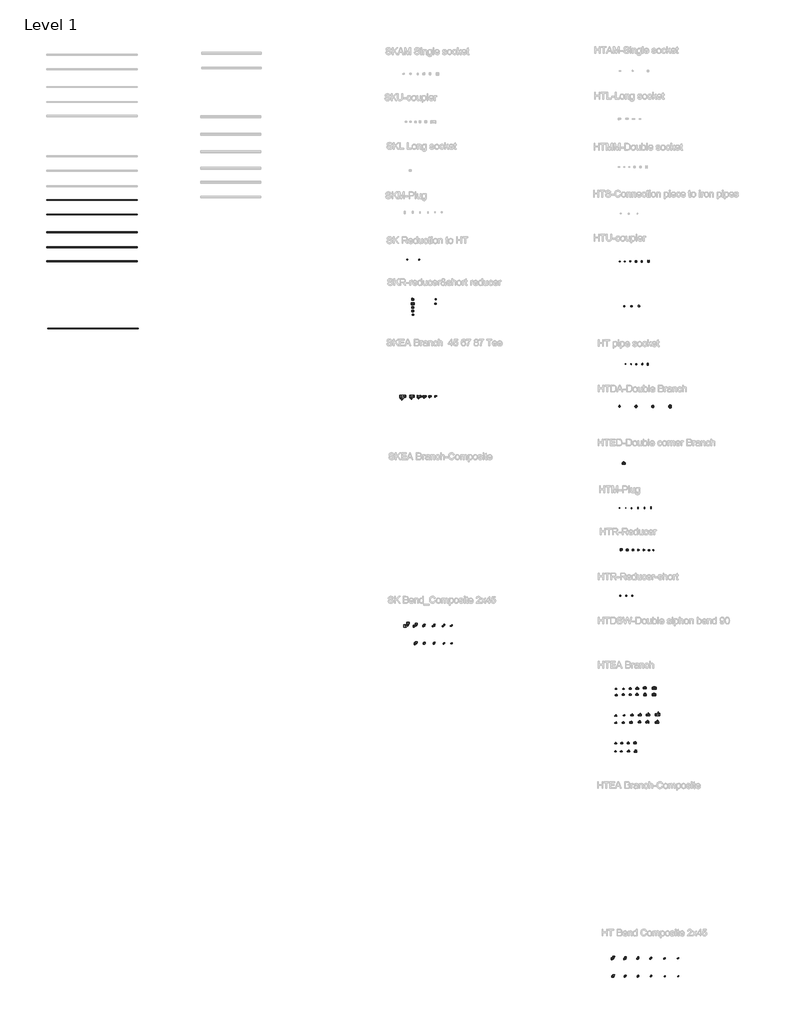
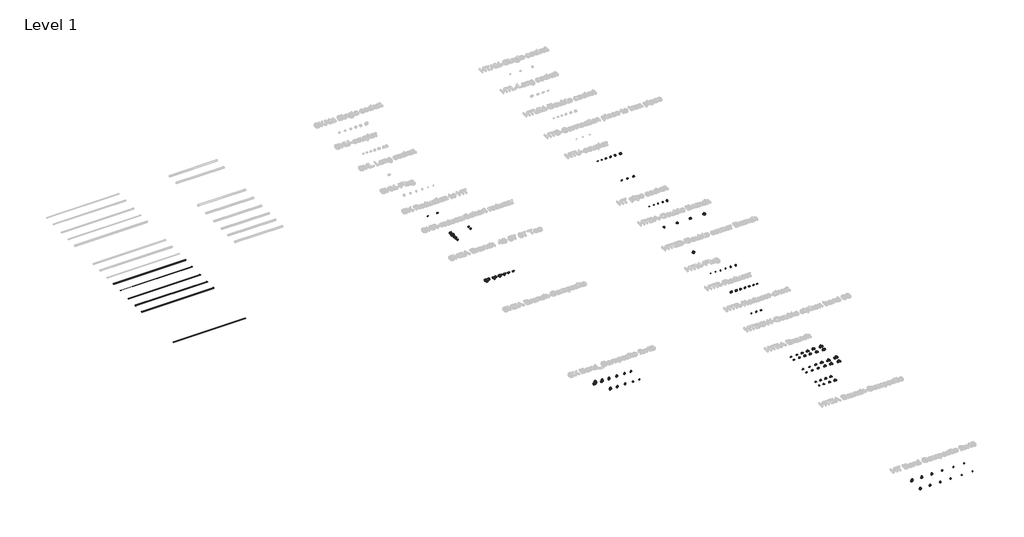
# One storey, part 1 of 29: 105 pipe fittings, 6 pipe segments.
"""IFC4 building model written with IfcOpenShell, lengths in millimetres."""

from ifc_helpers import new_model, si_unit, point, frame, frame_2d, origin, place, context, project, spatial, circle_curve, trimmed, segment, composite_curve, outline, extrude, transform, mapped, element, save
from components import pipe_fitting_b621045b, pipe_fitting_ceba5c8c, pipe_fitting_963da66b, pipe_fitting_d5d9e85b, pipe_fitting_ef411e22, pipe_fitting_05fc3727, pipe_fitting_0aba19ff, pipe_fitting_ca2bbeb8, pipe_fitting_bcb41124, pipe_fitting_d8eed5cc, pipe_fitting_7beec764, pipe_fitting_df5d9b67, pipe_fitting_f28c39a5, pipe_fitting_736c5d36, pipe_fitting_f0051c42, pipe_fitting_ecd3c65b, pipe_fitting_39af7424, pipe_fitting_bbc5507e, pipe_fitting_d46e7f13, pipe_fitting_e81c372e, pipe_fitting_c7a28f41, pipe_fitting_61a857b8, pipe_fitting_6fccea22, pipe_fitting_032b0b43, pipe_fitting_e509aae5, pipe_fitting_e68889b6, pipe_fitting_ca7c4e00, pipe_fitting_f14a9791, pipe_fitting_3a3b7264, pipe_fitting_425869a0, pipe_fitting_25bed5f7, pipe_fitting_d5ad7a8b, pipe_fitting_74035c22, pipe_fitting_14c2af34, pipe_fitting_e70e33fe, pipe_fitting_d945f117, pipe_fitting_5a0b59dd, pipe_fitting_4569e667, pipe_fitting_76f77cfd, pipe_fitting_930e2915, pipe_fitting_93a60349, pipe_fitting_1bd3c4db, pipe_fitting_7a552233, pipe_fitting_d9f46261, pipe_fitting_883b7029, pipe_fitting_b32571a5, pipe_fitting_7ab4710a, pipe_fitting_0effaf64, pipe_fitting_d2d6dc7e, pipe_fitting_077ba487, pipe_fitting_26660ebb, pipe_fitting_a8cb0abb, pipe_fitting_e676a374, pipe_fitting_79e6566c, pipe_fitting_26ced66b, pipe_fitting_282a1c25, pipe_fitting_83815e7b, pipe_fitting_f4149198, pipe_fitting_fcfd2369, pipe_fitting_dde092d7, pipe_fitting_0ca0ca97, pipe_fitting_7d6da301, pipe_fitting_84de09dd, pipe_fitting_5e54109a, pipe_fitting_ddc697cf, pipe_fitting_f813f56d, pipe_fitting_dea01873, pipe_fitting_d21c2c27, pipe_fitting_2df8d73d, pipe_fitting_50b450b3, pipe_fitting_351803b2, pipe_fitting_17b3b98e, pipe_fitting_c48c9deb, pipe_fitting_87a31271, pipe_fitting_170b30c4, pipe_fitting_2198333b, pipe_fitting_190eae22, pipe_fitting_3d344751, pipe_fitting_4e04f077, pipe_fitting_3aace630, pipe_fitting_2d7897f2, pipe_fitting_acd45fcd, pipe_fitting_a853ea9b, pipe_fitting_be12157c, pipe_fitting_bf39f6b9, pipe_fitting_26640547, pipe_fitting_f10a4fb0, pipe_fitting_c3cd4e37, pipe_fitting_97af18a5, pipe_fitting_66154b80, pipe_fitting_bdf33838, pipe_fitting_6c856efd, pipe_fitting_f454dd66, pipe_fitting_1cb4de3e, pipe_fitting_11ccc1d9, pipe_fitting_4f944cac, pipe_fitting_14ca0a48, pipe_fitting_9407c5e4, pipe_fitting_dc30568a, pipe_fitting_8a9b414e, pipe_fitting_3ae46ea1, pipe_fitting_c8f16737, pipe_fitting_87b8bd0e, pipe_fitting_85ea6e78, pipe_fitting_a793d895

model = new_model("IFC4")

# Units and contexts
model_context = context("Model", 3, world=origin())
ifc_project = project(units=[si_unit("LENGTHUNIT", "METRE", prefix="MILLI")], contexts=[model_context])

# Site, building, storey
site = spatial("IfcSite", under=ifc_project)
building = spatial("IfcBuilding", under=site)
storey = spatial("IfcBuildingStorey", under=building, Name="Level 1", Elevation=0.0)

# Pipe fittings
placement = place(None, origin())
pipe_fitting_shape = pipe_fitting_b621045b(model_context)
element("IfcPipeFitting", 1, ObjectType="Superdrain SKR-short reducer : Superdrain SKR-short reducer", at=placement, inside=storey, context=model_context, shape_type="MappedRepresentation", body=[
    mapped(pipe_fitting_shape, transform((74.0763112, -5849.0379103, 0.0), x_axis=(-1.0, 0.0, 0.0), y_axis=(0.0, -1.0, 0.0), z_axis=(0.0, 0.0, 1.0))),
])
pipe_fitting_2_shape = pipe_fitting_ceba5c8c(model_context)
element("IfcPipeFitting", 2, ObjectType="Superdrain SKR-short reducer : Superdrain SKR-short reducer", at=placement, inside=storey, context=model_context, shape_type="MappedRepresentation", body=[
    mapped(pipe_fitting_2_shape, transform((4.9567852, -6243.4729925, 0.0), x_axis=(1.0, 0.0, 0.0), y_axis=(0.0, 1.0, 0.0), z_axis=(0.0, 0.0, 1.0))),
])
pipe_fitting_3_shape = pipe_fitting_963da66b(model_context)
element("IfcPipeFitting", 3, ObjectType="Superdrain HTU-coupler : Superdrain HTU-coupler", at=placement, inside=storey, context=model_context, shape_type="MappedRepresentation", body=[
    mapped(pipe_fitting_3_shape, transform((17178.1747155, -2429.0497962, 0.0), x_axis=(1.0, 0.0, 0.0), y_axis=(0.0, 1.0, 0.0), z_axis=(0.0, 0.0, 1.0))),
])
pipe_fitting_4_shape = pipe_fitting_d5d9e85b(model_context)
element("IfcPipeFitting", 4, ObjectType="Superdrain HTU-coupler : Superdrain HTU-coupler", at=placement, inside=storey, context=model_context, shape_type="MappedRepresentation", body=[
    mapped(pipe_fitting_4_shape, transform((17670.1314342, -2429.0497962, 0.0), x_axis=(1.0, 0.0, 0.0), y_axis=(0.0, 1.0, 0.0), z_axis=(0.0, 0.0, 1.0))),
])
pipe_fitting_5_shape = pipe_fitting_ef411e22(model_context)
element("IfcPipeFitting", 5, ObjectType="Superdrain HTU-coupler : Superdrain HTU-coupler", at=placement, inside=storey, context=model_context, shape_type="MappedRepresentation", body=[
    mapped(pipe_fitting_5_shape, transform((18182.4309778, -2429.0497962, 0.0), x_axis=(1.0, 0.0, 0.0), y_axis=(0.0, 1.0, 0.0), z_axis=(0.0, 0.0, 1.0))),
])
pipe_fitting_6_shape = pipe_fitting_05fc3727(model_context)
element("IfcPipeFitting", 6, ObjectType="Superdrain HTU-coupler : Superdrain HTU-coupler", at=placement, inside=storey, context=model_context, shape_type="MappedRepresentation", body=[
    mapped(pipe_fitting_6_shape, transform((18714.5561083, -2429.0497962, 0.0), x_axis=(1.0, 0.0, 0.0), y_axis=(0.0, 1.0, 0.0), z_axis=(0.0, 0.0, 1.0))),
])
pipe_fitting_7_shape = pipe_fitting_0aba19ff(model_context)
element("IfcPipeFitting", 7, ObjectType="Superdrain HTU-coupler : Superdrain HTU-coupler", at=placement, inside=storey, context=model_context, shape_type="MappedRepresentation", body=[
    mapped(pipe_fitting_7_shape, transform((19316.0888645, -2429.0497962, 0.0), x_axis=(1.0, 0.0, 0.0), y_axis=(0.0, 1.0, 0.0), z_axis=(0.0, 0.0, 1.0))),
])
pipe_fitting_8_shape = pipe_fitting_ca2bbeb8(model_context)
element("IfcPipeFitting", 8, ObjectType="Superdrain SKR-Reducer : Superdrain SKR-Reducer", at=placement, inside=storey, context=model_context, shape_type="MappedRepresentation", body=[
    mapped(pipe_fitting_8_shape, transform((-1986.5721203, -7249.1944041, 0.0), x_axis=(1.0, 0.0, 0.0), y_axis=(0.0, 1.0, 0.0), z_axis=(0.0, 0.0, 1.0))),
])
pipe_fitting_9_shape = pipe_fitting_bcb41124(model_context)
element("IfcPipeFitting", 9, ObjectType="Superdrain SKR-Reducer : Superdrain SKR-Reducer", at=placement, inside=storey, context=model_context, shape_type="MappedRepresentation", body=[
    mapped(pipe_fitting_9_shape, transform((-2011.1081199, -6604.9732701, 0.0), x_axis=(1.0, 0.0, 0.0), y_axis=(0.0, 1.0, 0.0), z_axis=(0.0, 0.0, 1.0))),
])
pipe_fitting_10_shape = pipe_fitting_d8eed5cc(model_context)
element("IfcPipeFitting", 10, ObjectType="Superdrain SKR-Reducer : Superdrain SKR-Reducer", at=placement, inside=storey, context=model_context, shape_type="MappedRepresentation", body=[
    mapped(pipe_fitting_10_shape, transform((-2000.9802372, -6914.1614462, 0.0), x_axis=(1.0, 0.0, 0.0), y_axis=(0.0, 1.0, 0.0), z_axis=(0.0, 0.0, 1.0))),
])
pipe_fitting_11_shape = pipe_fitting_7beec764(model_context)
element("IfcPipeFitting", 11, ObjectType="Superdrain SKR-Reducer : Superdrain SKR-Reducer", at=placement, inside=storey, context=model_context, shape_type="MappedRepresentation", body=[
    mapped(pipe_fitting_11_shape, transform((-1987.5143677, -5860.0190698, 0.0), x_axis=(1.0, 0.0, 0.0), y_axis=(0.0, 1.0, 0.0), z_axis=(0.0, 0.0, 1.0))),
])
pipe_fitting_12_shape = pipe_fitting_df5d9b67(model_context)
element("IfcPipeFitting", 12, ObjectType="Superdrain SKR-Reducer : Superdrain SKR-Reducer", at=placement, inside=storey, context=model_context, shape_type="MappedRepresentation", body=[
    mapped(pipe_fitting_12_shape, transform((-1987.1100883, -6258.5095943, 0.0), x_axis=(1.0, 0.0, 0.0), y_axis=(0.0, 1.0, 0.0), z_axis=(0.0, 0.0, 1.0))),
])
pipe_fitting_13_shape = pipe_fitting_f28c39a5(model_context)
element("IfcPipeFitting", 13, ObjectType="Superdrain HTUG-Connection piece to cast-iron pipes : Superdrain HTUG-Connection piece to cast-iron pipes", at=placement, inside=storey, context=model_context, shape_type="MappedRepresentation", body=[
    mapped(pipe_fitting_13_shape, transform((17141.6289269, -6474.4361615, 0.0), x_axis=(1.0, 0.0, 0.0), y_axis=(0.0, 1.0, 0.0), z_axis=(0.0, 0.0, 1.0))),
])
pipe_fitting_14_shape = pipe_fitting_736c5d36(model_context)
element("IfcPipeFitting", 14, ObjectType="Superdrain HTUG-Connection piece to cast-iron pipes : Superdrain HTUG-Connection piece to cast-iron pipes", at=placement, inside=storey, context=model_context, shape_type="MappedRepresentation", body=[
    mapped(pipe_fitting_14_shape, transform((18486.9352266, -6474.4361615, 0.0), x_axis=(1.0, 0.0, 0.0), y_axis=(0.0, 1.0, 0.0), z_axis=(0.0, 0.0, 1.0))),
])
pipe_fitting_15_shape = pipe_fitting_f0051c42(model_context)
element("IfcPipeFitting", 15, ObjectType="Superdrain SKEA Branch : Superdrain SKEA Branch", at=placement, inside=storey, context=model_context, shape_type="MappedRepresentation", body=[
    mapped(pipe_fitting_15_shape, transform((-1362.7865664, -14625.5901938, 0.0), x_axis=(-1.0, 0.0, 0.0), y_axis=(0.0, -1.0, 0.0), z_axis=(0.0, 0.0, 1.0))),
])
pipe_fitting_16_shape = pipe_fitting_ecd3c65b(model_context)
element("IfcPipeFitting", 16, ObjectType="Superdrain SKEA Branch : Superdrain SKEA Branch", at=placement, inside=storey, context=model_context, shape_type="MappedRepresentation", body=[
    mapped(pipe_fitting_16_shape, transform((-882.7709882, -14627.6707619, 0.0), x_axis=(-1.0, 0.0, 0.0), y_axis=(0.0, -1.0, 0.0), z_axis=(0.0, 0.0, 1.0))),
])
pipe_fitting_17_shape = pipe_fitting_39af7424(model_context)
element("IfcPipeFitting", 17, ObjectType="Superdrain SKEA Branch : Superdrain SKEA Branch", at=placement, inside=storey, context=model_context, shape_type="MappedRepresentation", body=[
    mapped(pipe_fitting_17_shape, transform((-409.2514433, -14622.6351501, 0.0), x_axis=(-1.0, 0.0, 0.0), y_axis=(0.0, -1.0, 0.0), z_axis=(0.0, 0.0, 1.0))),
])
pipe_fitting_18_shape = pipe_fitting_bbc5507e(model_context)
element("IfcPipeFitting", 18, ObjectType="Superdrain SKEA Branch : Superdrain SKEA Branch", at=placement, inside=storey, context=model_context, shape_type="MappedRepresentation", body=[
    mapped(pipe_fitting_18_shape, transform((97.8618446, -14610.8206915, 0.0), x_axis=(-1.0, 0.0, 0.0), y_axis=(0.0, -1.0, 0.0), z_axis=(0.0, 0.0, 1.0))),
])
pipe_fitting_19_shape = pipe_fitting_d46e7f13(model_context)
element("IfcPipeFitting", 19, ObjectType="Superdrain SKEA Branch : Superdrain SKEA Branch", at=placement, inside=storey, context=model_context, shape_type="MappedRepresentation", body=[
    mapped(pipe_fitting_19_shape, transform((-1982.7865664, -14625.5901938, 0.0), x_axis=(-1.0, 0.0, 0.0), y_axis=(0.0, -1.0, 0.0), z_axis=(0.0, 0.0, 1.0))),
])
pipe_fitting_20_shape = pipe_fitting_e81c372e(model_context)
element("IfcPipeFitting", 20, ObjectType="Superdrain SKEA Branch : Superdrain SKEA Branch", at=placement, inside=storey, context=model_context, shape_type="MappedRepresentation", body=[
    mapped(pipe_fitting_20_shape, transform((-2802.7865664, -14625.5901938, 0.0), x_axis=(-1.0, 0.0, 0.0), y_axis=(0.0, -1.0, 0.0), z_axis=(0.0, 0.0, 1.0))),
])
pipe_fitting_21_shape = pipe_fitting_c7a28f41(model_context)
element("IfcPipeFitting", 21, ObjectType="Superdrain HT pipe socket : Superdrain HT pipe socket", at=placement, inside=storey, context=model_context, shape_type="MappedRepresentation", body=[
    mapped(pipe_fitting_21_shape, transform((17203.7987219, -11721.4891843, 0.0), x_axis=(1.0, 0.0, 0.0), y_axis=(0.0, 1.0, 0.0), z_axis=(0.0, 0.0, 1.0))),
])
pipe_fitting_22_shape = pipe_fitting_61a857b8(model_context)
element("IfcPipeFitting", 22, ObjectType="Superdrain HT pipe socket : Superdrain HT pipe socket", at=placement, inside=storey, context=model_context, shape_type="MappedRepresentation", body=[
    mapped(pipe_fitting_22_shape, transform((17723.9614939, -11721.4891843, 0.0), x_axis=(1.0, 0.0, 0.0), y_axis=(0.0, 1.0, 0.0), z_axis=(0.0, 0.0, 1.0))),
])
pipe_fitting_23_shape = pipe_fitting_6fccea22(model_context)
element("IfcPipeFitting", 23, ObjectType="Superdrain HT pipe socket : Superdrain HT pipe socket", at=placement, inside=storey, context=model_context, shape_type="MappedRepresentation", body=[
    mapped(pipe_fitting_23_shape, transform((18190.9043326, -11721.4891843, 0.0), x_axis=(1.0, 0.0, 0.0), y_axis=(0.0, 1.0, 0.0), z_axis=(0.0, 0.0, 1.0))),
])
pipe_fitting_24_shape = pipe_fitting_032b0b43(model_context)
element("IfcPipeFitting", 24, ObjectType="Superdrain HT pipe socket : Superdrain HT pipe socket", at=placement, inside=storey, context=model_context, shape_type="MappedRepresentation", body=[
    mapped(pipe_fitting_24_shape, transform((18722.7227813, -11721.4891843, 0.0), x_axis=(1.0, 0.0, 0.0), y_axis=(0.0, 1.0, 0.0), z_axis=(0.0, 0.0, 1.0))),
])
pipe_fitting_25_shape = pipe_fitting_e509aae5(model_context)
element("IfcPipeFitting", 25, ObjectType="Superdrain HT pipe socket : Superdrain HT pipe socket", at=placement, inside=storey, context=model_context, shape_type="MappedRepresentation", body=[
    mapped(pipe_fitting_25_shape, transform((19215.1672891, -11721.4891843, 0.0), x_axis=(1.0, 0.0, 0.0), y_axis=(0.0, 1.0, 0.0), z_axis=(0.0, 0.0, 1.0))),
])
pipe_fitting_26_shape = pipe_fitting_e68889b6(model_context)
element("IfcPipeFitting", 26, ObjectType="Superdrain HTDA-Double Branch : Superdrain HTDA-Double Branch", at=placement, inside=storey, context=model_context, shape_type="MappedRepresentation", body=[
    mapped(pipe_fitting_26_shape, transform((16683.9136594, -15531.7494421, 0.0), x_axis=(1.0, 0.0, 0.0), y_axis=(0.0, 1.0, 0.0), z_axis=(0.0, 0.0, 1.0))),
])
pipe_fitting_27_shape = pipe_fitting_ca7c4e00(model_context)
element("IfcPipeFitting", 27, ObjectType="Superdrain HTDA-Double Branch : Superdrain HTDA-Double Branch", at=placement, inside=storey, context=model_context, shape_type="MappedRepresentation", body=[
    mapped(pipe_fitting_27_shape, transform((18175.7806623, -15545.8915777, 0.0), x_axis=(1.0, 0.0, 0.0), y_axis=(0.0, 1.0, 0.0), z_axis=(0.0, 0.0, 1.0))),
])
pipe_fitting_28_shape = pipe_fitting_f14a9791(model_context)
element("IfcPipeFitting", 28, ObjectType="Superdrain HTDA-Double Branch : Superdrain HTDA-Double Branch", at=placement, inside=storey, context=model_context, shape_type="MappedRepresentation", body=[
    mapped(pipe_fitting_28_shape, transform((19680.7468134, -15543.5327339, 0.0), x_axis=(1.0, 0.0, 0.0), y_axis=(0.0, 1.0, 0.0), z_axis=(0.0, 0.0, 1.0))),
])
pipe_fitting_29_shape = pipe_fitting_3a3b7264(model_context)
element("IfcPipeFitting", 29, ObjectType="Superdrain HTDA-Double Branch : Superdrain HTDA-Double Branch", at=placement, inside=storey, context=model_context, shape_type="MappedRepresentation", body=[
    mapped(pipe_fitting_29_shape, transform((21253.9863296, -15543.5327339, 0.0), x_axis=(1.0, 0.0, 0.0), y_axis=(0.0, 1.0, 0.0), z_axis=(0.0, 0.0, 1.0))),
])
pipe_fitting_30_shape = pipe_fitting_425869a0(model_context)
element("IfcPipeFitting", 30, ObjectType="Superdrain HTED-Double corner Branch : Superdrain HTED-Double corner Branch", at=placement, inside=storey, context=model_context, shape_type="MappedRepresentation", body=[
    mapped(pipe_fitting_30_shape, transform((17060.2060533, -20713.0190851, 0.0), x_axis=(1.0, 0.0, 0.0), y_axis=(0.0, 1.0, 0.0), z_axis=(0.0, 0.0, 1.0))),
])
pipe_fitting_31_shape = pipe_fitting_25bed5f7(model_context)
element("IfcPipeFitting", 31, ObjectType="Superdrain HTM-Plug : Superdrain HTM-Plug", at=placement, inside=storey, context=model_context, shape_type="MappedRepresentation", body=[
    mapped(pipe_fitting_31_shape, transform((17251.4973858, -24731.0897256, 0.0), x_axis=(1.0, 0.0, 0.0), y_axis=(0.0, 1.0, 0.0), z_axis=(0.0, 0.0, 1.0))),
])
pipe_fitting_32_shape = pipe_fitting_d5ad7a8b(model_context)
element("IfcPipeFitting", 32, ObjectType="Superdrain HTM-Plug : Superdrain HTM-Plug", at=placement, inside=storey, context=model_context, shape_type="MappedRepresentation", body=[
    mapped(pipe_fitting_32_shape, transform((17783.0226997, -24737.8577108, 0.0), x_axis=(1.0, 0.0, 0.0), y_axis=(0.0, 1.0, 0.0), z_axis=(0.0, 0.0, 1.0))),
])
pipe_fitting_33_shape = pipe_fitting_74035c22(model_context)
element("IfcPipeFitting", 33, ObjectType="Superdrain HTM-Plug : Superdrain HTM-Plug", at=placement, inside=storey, context=model_context, shape_type="MappedRepresentation", body=[
    mapped(pipe_fitting_33_shape, transform((18369.3336634, -24723.8745421, 0.0), x_axis=(1.0, 0.0, 0.0), y_axis=(0.0, 1.0, 0.0), z_axis=(0.0, 0.0, 1.0))),
])
pipe_fitting_34_shape = pipe_fitting_14c2af34(model_context)
element("IfcPipeFitting", 34, ObjectType="Superdrain HTM-Plug : Superdrain HTM-Plug", at=placement, inside=storey, context=model_context, shape_type="MappedRepresentation", body=[
    mapped(pipe_fitting_34_shape, transform((18953.2230006, -24720.1521719, 0.0), x_axis=(1.0, 0.0, 0.0), y_axis=(0.0, 1.0, 0.0), z_axis=(0.0, 0.0, 1.0))),
])
pipe_fitting_35_shape = pipe_fitting_e70e33fe(model_context)
element("IfcPipeFitting", 35, ObjectType="Superdrain HTM-Plug : Superdrain HTM-Plug", at=placement, inside=storey, context=model_context, shape_type="MappedRepresentation", body=[
    mapped(pipe_fitting_35_shape, transform((19518.4781743, -24720.8940703, 0.0), x_axis=(1.0, 0.0, 0.0), y_axis=(0.0, 1.0, 0.0), z_axis=(0.0, 0.0, 1.0))),
])
pipe_fitting_36_shape = pipe_fitting_d945f117(model_context)
element("IfcPipeFitting", 36, ObjectType="Superdrain HTR-Reducer : Superdrain HTR-Reducer", at=placement, inside=storey, context=model_context, shape_type="MappedRepresentation", body=[
    mapped(pipe_fitting_36_shape, transform((18407.4713943, -28523.7856885, 0.0), x_axis=(1.0, 0.0, 0.0), y_axis=(0.0, 1.0, 0.0), z_axis=(0.0, 0.0, 1.0))),
])
pipe_fitting_37_shape = pipe_fitting_5a0b59dd(model_context)
element("IfcPipeFitting", 37, ObjectType="Superdrain HTR-Reducer : Superdrain HTR-Reducer", at=placement, inside=storey, context=model_context, shape_type="MappedRepresentation", body=[
    mapped(pipe_fitting_37_shape, transform((18893.7727168, -28529.9411468, 0.0), x_axis=(1.0, 0.0, 0.0), y_axis=(0.0, 1.0, 0.0), z_axis=(0.0, 0.0, 1.0))),
])
pipe_fitting_38_shape = pipe_fitting_4569e667(model_context)
element("IfcPipeFitting", 38, ObjectType="Superdrain HTR-Reducer : Superdrain HTR-Reducer", at=placement, inside=storey, context=model_context, shape_type="MappedRepresentation", body=[
    mapped(pipe_fitting_38_shape, transform((19773.4091133, -28546.7291471, 0.0), x_axis=(1.0, 0.0, 0.0), y_axis=(0.0, -1.0, 0.0), z_axis=(0.0, 0.0, -1.0))),
])
pipe_fitting_39_shape = pipe_fitting_76f77cfd(model_context)
element("IfcPipeFitting", 39, ObjectType="Superdrain HTR-Reducer : Superdrain HTR-Reducer", at=placement, inside=storey, context=model_context, shape_type="MappedRepresentation", body=[
    mapped(pipe_fitting_39_shape, transform((19351.2475387, -28547.6480148, 0.0), x_axis=(1.0, 0.0, 0.0), y_axis=(0.0, 1.0, 0.0), z_axis=(0.0, 0.0, 1.0))),
])
pipe_fitting_40_shape = pipe_fitting_930e2915(model_context)
element("IfcPipeFitting", 40, ObjectType="Superdrain HTR-Reducer : Superdrain HTR-Reducer", at=placement, inside=storey, context=model_context, shape_type="MappedRepresentation", body=[
    mapped(pipe_fitting_40_shape, transform((17409.0829294, -28523.2112112, 0.0), x_axis=(1.0, 0.0, 0.0), y_axis=(0.0, 1.0, 0.0), z_axis=(0.0, 0.0, 1.0))),
])
pipe_fitting_41_shape = pipe_fitting_93a60349(model_context)
element("IfcPipeFitting", 41, ObjectType="Superdrain HTR-Reducer : Superdrain HTR-Reducer", at=placement, inside=storey, context=model_context, shape_type="MappedRepresentation", body=[
    mapped(pipe_fitting_41_shape, transform((17914.5980082, -28513.5301083, 0.0), x_axis=(1.0, 0.0, 0.0), y_axis=(0.0, 1.0, 0.0), z_axis=(0.0, 0.0, 1.0))),
])
pipe_fitting_42_shape = pipe_fitting_1bd3c4db(model_context)
element("IfcPipeFitting", 42, ObjectType="Superdrain HTR-Reducer : Superdrain HTR-Reducer", at=placement, inside=storey, context=model_context, shape_type="MappedRepresentation", body=[
    mapped(pipe_fitting_42_shape, transform((16861.4839425, -28498.6113801, 0.0), x_axis=(1.0, 0.0, 0.0), y_axis=(0.0, 1.0, 0.0), z_axis=(0.0, 0.0, 1.0))),
])
pipe_fitting_43_shape = pipe_fitting_7a552233(model_context)
element("IfcPipeFitting", 43, ObjectType="Superdrain HTR-Reducer-short : Superdrain HTR-Reducer-short", at=placement, inside=storey, context=model_context, shape_type="MappedRepresentation", body=[
    mapped(pipe_fitting_43_shape, transform((16718.6370095, -32667.5118688, 0.0), x_axis=(1.0, 0.0, 0.0), y_axis=(0.0, 1.0, 0.0), z_axis=(0.0, 0.0, 1.0))),
])
pipe_fitting_44_shape = pipe_fitting_d9f46261(model_context)
element("IfcPipeFitting", 44, ObjectType="Superdrain HTR-Reducer-short : Superdrain HTR-Reducer-short", at=placement, inside=storey, context=model_context, shape_type="MappedRepresentation", body=[
    mapped(pipe_fitting_44_shape, transform((17268.0126795, -32663.5863531, 0.0), x_axis=(1.0, 0.0, 0.0), y_axis=(0.0, 1.0, 0.0), z_axis=(0.0, 0.0, 1.0))),
])
pipe_fitting_45_shape = pipe_fitting_883b7029(model_context)
element("IfcPipeFitting", 45, ObjectType="Superdrain HTR-Reducer-short : Superdrain HTR-Reducer-short", at=placement, inside=storey, context=model_context, shape_type="MappedRepresentation", body=[
    mapped(pipe_fitting_45_shape, transform((17804.2861212, -32661.9546739, 0.0), x_axis=(1.0, 0.0, 0.0), y_axis=(0.0, 1.0, 0.0), z_axis=(0.0, 0.0, 1.0))),
])
pipe_fitting_46_shape = pipe_fitting_b32571a5(model_context)
element("IfcPipeFitting", 46, ObjectType="Superdrain HTEA Branch : Superdrain HTEA Branch", at=placement, inside=storey, context=model_context, shape_type="MappedRepresentation", body=[
    mapped(pipe_fitting_46_shape, transform((16404.8225307, -41081.5538178, 0.0), x_axis=(1.0, 0.0, 0.0), y_axis=(0.0, 1.0, 0.0), z_axis=(0.0, 0.0, 1.0))),
])
pipe_fitting_47_shape = pipe_fitting_7ab4710a(model_context)
element("IfcPipeFitting", 47, ObjectType="Superdrain HTEA Branch : Superdrain HTEA Branch", at=placement, inside=storey, context=model_context, shape_type="MappedRepresentation", body=[
    mapped(pipe_fitting_47_shape, transform((17051.010951, -41089.6137641, 0.0), x_axis=(1.0, 0.0, 0.0), y_axis=(0.0, 1.0, 0.0), z_axis=(0.0, 0.0, 1.0))),
])
pipe_fitting_48_shape = pipe_fitting_0effaf64(model_context)
element("IfcPipeFitting", 48, ObjectType="Superdrain HTEA Branch : Superdrain HTEA Branch", at=placement, inside=storey, context=model_context, shape_type="MappedRepresentation", body=[
    mapped(pipe_fitting_48_shape, transform((16408.2545074, -41662.8871581, 0.0), x_axis=(1.0, 0.0, 0.0), y_axis=(0.0, 1.0, 0.0), z_axis=(0.0, 0.0, 1.0))),
])
pipe_fitting_49_shape = pipe_fitting_d2d6dc7e(model_context)
element("IfcPipeFitting", 49, ObjectType="Superdrain HTEA Branch : Superdrain HTEA Branch", at=placement, inside=storey, context=model_context, shape_type="MappedRepresentation", body=[
    mapped(pipe_fitting_49_shape, transform((17035.6211328, -41635.7284055, 0.0), x_axis=(1.0, 0.0, 0.0), y_axis=(0.0, 1.0, 0.0), z_axis=(0.0, 0.0, 1.0))),
])
pipe_fitting_50_shape = pipe_fitting_077ba487(model_context)
element("IfcPipeFitting", 50, ObjectType="Superdrain HTEA Branch : Superdrain HTEA Branch", at=placement, inside=storey, context=model_context, shape_type="MappedRepresentation", body=[
    mapped(pipe_fitting_50_shape, transform((17678.5693592, -41071.3719786, 0.0), x_axis=(1.0, 0.0, 0.0), y_axis=(0.0, 1.0, 0.0), z_axis=(0.0, 0.0, 1.0))),
])
pipe_fitting_51_shape = pipe_fitting_26660ebb(model_context)
element("IfcPipeFitting", 51, ObjectType="Superdrain HTEA Branch : Superdrain HTEA Branch", at=placement, inside=storey, context=model_context, shape_type="MappedRepresentation", body=[
    mapped(pipe_fitting_51_shape, transform((17665.6202094, -41621.1280167, 0.0), x_axis=(1.0, 0.0, 0.0), y_axis=(0.0, 1.0, 0.0), z_axis=(0.0, 0.0, 1.0))),
])
pipe_fitting_52_shape = pipe_fitting_a8cb0abb(model_context)
element("IfcPipeFitting", 52, ObjectType="Superdrain HTEA Branch : Superdrain HTEA Branch", at=placement, inside=storey, context=model_context, shape_type="MappedRepresentation", body=[
    mapped(pipe_fitting_52_shape, transform((18285.771372, -41614.7917516, 0.0), x_axis=(1.0, 0.0, 0.0), y_axis=(0.0, 1.0, 0.0), z_axis=(0.0, 0.0, 1.0))),
])
pipe_fitting_53_shape = pipe_fitting_e676a374(model_context)
element("IfcPipeFitting", 53, ObjectType="Superdrain HTEA Branch : Superdrain HTEA Branch", at=placement, inside=storey, context=model_context, shape_type="MappedRepresentation", body=[
    mapped(pipe_fitting_53_shape, transform((18306.3309594, -41072.0127039, 0.0), x_axis=(1.0, 0.0, 0.0), y_axis=(0.0, 1.0, 0.0), z_axis=(0.0, 0.0, 1.0))),
])
pipe_fitting_54_shape = pipe_fitting_79e6566c(model_context)
element("IfcPipeFitting", 54, ObjectType="Superdrain HTEA Branch : Superdrain HTEA Branch", at=placement, inside=storey, context=model_context, shape_type="MappedRepresentation", body=[
    mapped(pipe_fitting_54_shape, transform((19009.1237054, -41629.0742109, 0.0), x_axis=(1.0, 0.0, 0.0), y_axis=(0.0, 1.0, 0.0), z_axis=(0.0, 0.0, 1.0))),
])
pipe_fitting_55_shape = pipe_fitting_26ced66b(model_context)
element("IfcPipeFitting", 55, ObjectType="Superdrain HTEA Branch : Superdrain HTEA Branch", at=placement, inside=storey, context=model_context, shape_type="MappedRepresentation", body=[
    mapped(pipe_fitting_55_shape, transform((19822.051363, -41618.6191814, 0.0), x_axis=(1.0, 0.0, 0.0), y_axis=(0.0, 1.0, 0.0), z_axis=(0.0, 0.0, 1.0))),
])
pipe_fitting_56_shape = pipe_fitting_282a1c25(model_context)
element("IfcPipeFitting", 56, ObjectType="Superdrain HTEA Branch : Superdrain HTEA Branch", at=placement, inside=storey, context=model_context, shape_type="MappedRepresentation", body=[
    mapped(pipe_fitting_56_shape, transform((19845.5126277, -41046.6200369, 0.0), x_axis=(1.0, 0.0, 0.0), y_axis=(0.0, 1.0, 0.0), z_axis=(0.0, 0.0, 1.0))),
])
pipe_fitting_57_shape = pipe_fitting_83815e7b(model_context)
element("IfcPipeFitting", 57, ObjectType="Superdrain HTEA Branch : Superdrain HTEA Branch", at=placement, inside=storey, context=model_context, shape_type="MappedRepresentation", body=[
    mapped(pipe_fitting_57_shape, transform((16338.4070208, -43521.8912619, 0.0), x_axis=(1.0, 0.0, 0.0), y_axis=(0.0, 1.0, 0.0), z_axis=(0.0, 0.0, 1.0))),
])
pipe_fitting_58_shape = pipe_fitting_f4149198(model_context)
element("IfcPipeFitting", 58, ObjectType="Superdrain HTEA Branch : Superdrain HTEA Branch", at=placement, inside=storey, context=model_context, shape_type="MappedRepresentation", body=[
    mapped(pipe_fitting_58_shape, transform((17079.3612448, -43511.53057, 0.0), x_axis=(1.0, 0.0, 0.0), y_axis=(0.0, 1.0, 0.0), z_axis=(0.0, 0.0, 1.0))),
])
pipe_fitting_59_shape = pipe_fitting_fcfd2369(model_context)
element("IfcPipeFitting", 59, ObjectType="Superdrain HTEA Branch : Superdrain HTEA Branch", at=placement, inside=storey, context=model_context, shape_type="MappedRepresentation", body=[
    mapped(pipe_fitting_59_shape, transform((16338.0441548, -44169.1645652, 0.0), x_axis=(1.0, 0.0, 0.0), y_axis=(0.0, 1.0, 0.0), z_axis=(0.0, 0.0, 1.0))),
])
pipe_fitting_60_shape = pipe_fitting_dde092d7(model_context)
element("IfcPipeFitting", 60, ObjectType="Superdrain HTEA Branch : Superdrain HTEA Branch", at=placement, inside=storey, context=model_context, shape_type="MappedRepresentation", body=[
    mapped(pipe_fitting_60_shape, transform((16986.5147254, -44149.1935768, 0.0), x_axis=(1.0, 0.0, 0.0), y_axis=(0.0, 1.0, 0.0), z_axis=(0.0, 0.0, 1.0))),
])
pipe_fitting_61_shape = pipe_fitting_0ca0ca97(model_context)
element("IfcPipeFitting", 61, ObjectType="Superdrain HTEA Branch : Superdrain HTEA Branch", at=placement, inside=storey, context=model_context, shape_type="MappedRepresentation", body=[
    mapped(pipe_fitting_61_shape, transform((17791.0503135, -43474.4710542, 0.0), x_axis=(1.0, 0.0, 0.0), y_axis=(0.0, 1.0, 0.0), z_axis=(0.0, 0.0, 1.0))),
])
pipe_fitting_62_shape = pipe_fitting_7d6da301(model_context)
element("IfcPipeFitting", 62, ObjectType="Superdrain HTEA Branch : Superdrain HTEA Branch", at=placement, inside=storey, context=model_context, shape_type="MappedRepresentation", body=[
    mapped(pipe_fitting_62_shape, transform((18453.4233688, -44100.434778, 0.0), x_axis=(1.0, 0.0, 0.0), y_axis=(0.0, 1.0, 0.0), z_axis=(0.0, 0.0, 1.0))),
])
pipe_fitting_63_shape = pipe_fitting_84de09dd(model_context)
element("IfcPipeFitting", 63, ObjectType="Superdrain HTEA Branch : Superdrain HTEA Branch", at=placement, inside=storey, context=model_context, shape_type="MappedRepresentation", body=[
    mapped(pipe_fitting_63_shape, transform((17688.8803619, -44124.6539151, 0.0), x_axis=(1.0, 0.0, 0.0), y_axis=(0.0, 1.0, 0.0), z_axis=(0.0, 0.0, 1.0))),
])
pipe_fitting_64_shape = pipe_fitting_5e54109a(model_context)
element("IfcPipeFitting", 64, ObjectType="Superdrain HTEA Branch : Superdrain HTEA Branch", at=placement, inside=storey, context=model_context, shape_type="MappedRepresentation", body=[
    mapped(pipe_fitting_64_shape, transform((18474.43703, -43469.3156296, 0.0), x_axis=(1.0, 0.0, 0.0), y_axis=(0.0, 1.0, 0.0), z_axis=(0.0, 0.0, 1.0))),
])
pipe_fitting_65_shape = pipe_fitting_ddc697cf(model_context)
element("IfcPipeFitting", 65, ObjectType="Superdrain HTEA Branch : Superdrain HTEA Branch", at=placement, inside=storey, context=model_context, shape_type="MappedRepresentation", body=[
    mapped(pipe_fitting_65_shape, transform((19150.4543956, -44106.6393709, 0.0), x_axis=(1.0, 0.0, 0.0), y_axis=(0.0, 1.0, 0.0), z_axis=(0.0, 0.0, 1.0))),
])
pipe_fitting_66_shape = pipe_fitting_f813f56d(model_context)
element("IfcPipeFitting", 66, ObjectType="Superdrain HTEA Branch : Superdrain HTEA Branch", at=placement, inside=storey, context=model_context, shape_type="MappedRepresentation", body=[
    mapped(pipe_fitting_66_shape, transform((20010.9270315, -44130.5002314, 0.0), x_axis=(1.0, 0.0, 0.0), y_axis=(0.0, 1.0, 0.0), z_axis=(0.0, 0.0, 1.0))),
])
pipe_fitting_67_shape = pipe_fitting_dea01873(model_context)
element("IfcPipeFitting", 67, ObjectType="Superdrain HTEA Branch : Superdrain HTEA Branch", at=placement, inside=storey, context=model_context, shape_type="MappedRepresentation", body=[
    mapped(pipe_fitting_67_shape, transform((20075.0518312, -43425.6709166, 0.0), x_axis=(1.0, 0.0, 0.0), y_axis=(0.0, 1.0, 0.0), z_axis=(0.0, 0.0, 1.0))),
])
pipe_fitting_68_shape = pipe_fitting_d21c2c27(model_context)
element("IfcPipeFitting", 68, ObjectType="Superdrain HTEA Branch : Superdrain HTEA Branch", at=placement, inside=storey, context=model_context, shape_type="MappedRepresentation", body=[
    mapped(pipe_fitting_68_shape, transform((16899.2904614, -46016.0197227, 0.0), x_axis=(1.0, 0.0, 0.0), y_axis=(0.0, 1.0, 0.0), z_axis=(0.0, 0.0, 1.0))),
])
pipe_fitting_69_shape = pipe_fitting_2df8d73d(model_context)
element("IfcPipeFitting", 69, ObjectType="Superdrain HTEA Branch : Superdrain HTEA Branch", at=placement, inside=storey, context=model_context, shape_type="MappedRepresentation", body=[
    mapped(pipe_fitting_69_shape, transform((17474.4250065, -46005.9463959, 0.0), x_axis=(1.0, 0.0, 0.0), y_axis=(0.0, 1.0, 0.0), z_axis=(0.0, 0.0, 1.0))),
])
pipe_fitting_70_shape = pipe_fitting_50b450b3(model_context)
element("IfcPipeFitting", 70, ObjectType="Superdrain HTEA Branch : Superdrain HTEA Branch", at=placement, inside=storey, context=model_context, shape_type="MappedRepresentation", body=[
    mapped(pipe_fitting_70_shape, transform((16353.3387037, -46016.4107251, 0.0), x_axis=(1.0, 0.0, 0.0), y_axis=(0.0, 1.0, 0.0), z_axis=(0.0, 0.0, 1.0))),
])
pipe_fitting_71_shape = pipe_fitting_351803b2(model_context)
element("IfcPipeFitting", 71, ObjectType="Superdrain HTEA Branch : Superdrain HTEA Branch", at=placement, inside=storey, context=model_context, shape_type="MappedRepresentation", body=[
    mapped(pipe_fitting_71_shape, transform((18075.4078639, -45995.6614148, 0.0), x_axis=(1.0, 0.0, 0.0), y_axis=(0.0, 1.0, 0.0), z_axis=(0.0, 0.0, 1.0))),
])
pipe_fitting_72_shape = pipe_fitting_17b3b98e(model_context)
element("IfcPipeFitting", 72, ObjectType="Superdrain HTEA Branch : Superdrain HTEA Branch", at=placement, inside=storey, context=model_context, shape_type="MappedRepresentation", body=[
    mapped(pipe_fitting_72_shape, transform((16326.2088559, -46754.2217158, 0.0), x_axis=(1.0, 0.0, 0.0), y_axis=(0.0, 1.0, 0.0), z_axis=(0.0, 0.0, 1.0))),
])
pipe_fitting_73_shape = pipe_fitting_c48c9deb(model_context)
element("IfcPipeFitting", 73, ObjectType="Superdrain HTEA Branch : Superdrain HTEA Branch", at=placement, inside=storey, context=model_context, shape_type="MappedRepresentation", body=[
    mapped(pipe_fitting_73_shape, transform((16846.1154218, -46762.2816621, 0.0), x_axis=(1.0, 0.0, 0.0), y_axis=(0.0, 1.0, 0.0), z_axis=(0.0, 0.0, 1.0))),
])
pipe_fitting_74_shape = pipe_fitting_87a31271(model_context)
element("IfcPipeFitting", 74, ObjectType="Superdrain HTEA Branch : Superdrain HTEA Branch", at=placement, inside=storey, context=model_context, shape_type="MappedRepresentation", body=[
    mapped(pipe_fitting_74_shape, transform((18127.7954179, -46769.6122895, 0.0), x_axis=(1.0, 0.0, 0.0), y_axis=(0.0, 1.0, 0.0), z_axis=(0.0, 0.0, 1.0))),
])
pipe_fitting_75_shape = pipe_fitting_170b30c4(model_context)
element("IfcPipeFitting", 75, ObjectType="Superdrain HTEA Branch : Superdrain HTEA Branch", at=placement, inside=storey, context=model_context, shape_type="MappedRepresentation", body=[
    mapped(pipe_fitting_75_shape, transform((19214.43703, -43469.3156296, 0.0), x_axis=(1.0, 0.0, 0.0), y_axis=(0.0, 1.0, 0.0), z_axis=(0.0, 0.0, 1.0))),
])
pipe_fitting_76_shape = pipe_fitting_2198333b(model_context)
element("IfcPipeFitting", 76, ObjectType="Superdrain HTEA Branch : Superdrain HTEA Branch", at=placement, inside=storey, context=model_context, shape_type="MappedRepresentation", body=[
    mapped(pipe_fitting_76_shape, transform((18990.5862664, -41023.2896093, 0.0), x_axis=(1.0, 0.0, 0.0), y_axis=(0.0, 1.0, 0.0), z_axis=(0.0, 0.0, 1.0))),
])
pipe_fitting_77_shape = pipe_fitting_190eae22(model_context)
element("IfcPipeFitting", 77, ObjectType="Superdrain HTEA Branch : Superdrain HTEA Branch", at=placement, inside=storey, context=model_context, shape_type="MappedRepresentation", body=[
    mapped(pipe_fitting_77_shape, transform((17495.3737887, -46751.4190046, 0.0), x_axis=(1.0, 0.0, 0.0), y_axis=(0.0, 1.0, 0.0), z_axis=(0.0, 0.0, 1.0))),
])
pipe_fitting_78_shape = pipe_fitting_3d344751(model_context)
element("IfcPipeFitting", 78, ObjectType="Superdrain SK Bend_Composite 2x45 : Superdrain SK Bend_Composite 2x45", at=placement, inside=storey, context=model_context, shape_type="MappedRepresentation", body=[
    mapped(pipe_fitting_78_shape, transform((-2426.9588307, -35414.0795128, 0.0), x_axis=(1.0, 0.0, 0.0), y_axis=(0.0, 1.0, 0.0), z_axis=(0.0, 0.0, 1.0))),
])
pipe_fitting_79_shape = pipe_fitting_4e04f077(model_context)
element("IfcPipeFitting", 79, ObjectType="Superdrain SK Bend_Composite 2x45 : Superdrain SK Bend_Composite 2x45", at=placement, inside=storey, context=model_context, shape_type="MappedRepresentation", body=[
    mapped(pipe_fitting_79_shape, transform((-1686.9588307, -35414.0795128, 0.0), x_axis=(1.0, 0.0, 0.0), y_axis=(0.0, 1.0, 0.0), z_axis=(0.0, 0.0, 1.0))),
])
pipe_fitting_80_shape = pipe_fitting_3aace630(model_context)
element("IfcPipeFitting", 80, ObjectType="Superdrain SK Bend_Composite 2x45 : Superdrain SK Bend_Composite 2x45", at=placement, inside=storey, context=model_context, shape_type="MappedRepresentation", body=[
    mapped(pipe_fitting_80_shape, transform((-926.9588307, -35414.0795128, 0.0), x_axis=(1.0, 0.0, 0.0), y_axis=(0.0, 1.0, 0.0), z_axis=(0.0, 0.0, 1.0))),
])
pipe_fitting_81_shape = pipe_fitting_2d7897f2(model_context)
element("IfcPipeFitting", 81, ObjectType="Superdrain SK Bend_Composite 2x45 : Superdrain SK Bend_Composite 2x45", at=placement, inside=storey, context=model_context, shape_type="MappedRepresentation", body=[
    mapped(pipe_fitting_81_shape, transform((833.0411693, -35414.0795128, 0.0), x_axis=(1.0, 0.0, 0.0), y_axis=(0.0, 1.0, 0.0), z_axis=(0.0, 0.0, 1.0))),
])
pipe_fitting_82_shape = pipe_fitting_acd45fcd(model_context)
element("IfcPipeFitting", 82, ObjectType="Superdrain SK Bend_Composite 2x45 : Superdrain SK Bend_Composite 2x45", at=placement, inside=storey, context=model_context, shape_type="MappedRepresentation", body=[
    mapped(pipe_fitting_82_shape, transform((1553.0411693, -35414.0795128, 0.0), x_axis=(1.0, 0.0, 0.0), y_axis=(0.0, 1.0, 0.0), z_axis=(0.0, 0.0, 1.0))),
])
pipe_fitting_83_shape = pipe_fitting_a853ea9b(model_context)
element("IfcPipeFitting", 83, ObjectType="Superdrain SK Bend_Composite 2x45 : Superdrain SK Bend_Composite 2x45", at=placement, inside=storey, context=model_context, shape_type="MappedRepresentation", body=[
    mapped(pipe_fitting_83_shape, transform((-1686.9588307, -36994.4503394, 0.0), x_axis=(1.0, 0.0, 0.0), y_axis=(0.0, 1.0, 0.0), z_axis=(0.0, 0.0, 1.0))),
])
pipe_fitting_84_shape = pipe_fitting_be12157c(model_context)
element("IfcPipeFitting", 84, ObjectType="Superdrain SK Bend_Composite 2x45 : Superdrain SK Bend_Composite 2x45", at=placement, inside=storey, context=model_context, shape_type="MappedRepresentation", body=[
    mapped(pipe_fitting_84_shape, transform((-926.9588307, -36994.4503394, 0.0), x_axis=(1.0, 0.0, 0.0), y_axis=(0.0, 1.0, 0.0), z_axis=(0.0, 0.0, 1.0))),
])
pipe_fitting_85_shape = pipe_fitting_bf39f6b9(model_context)
element("IfcPipeFitting", 85, ObjectType="Superdrain SK Bend_Composite 2x45 : Superdrain SK Bend_Composite 2x45", at=placement, inside=storey, context=model_context, shape_type="MappedRepresentation", body=[
    mapped(pipe_fitting_85_shape, transform((-46.9588307, -36994.4503394, 0.0), x_axis=(1.0, 0.0, 0.0), y_axis=(0.0, 1.0, 0.0), z_axis=(0.0, 0.0, 1.0))),
])
pipe_fitting_86_shape = pipe_fitting_26640547(model_context)
element("IfcPipeFitting", 86, ObjectType="Superdrain SK Bend_Composite 2x45 : Superdrain SK Bend_Composite 2x45", at=placement, inside=storey, context=model_context, shape_type="MappedRepresentation", body=[
    mapped(pipe_fitting_86_shape, transform((833.0411693, -36994.4503394, 0.0), x_axis=(1.0, 0.0, 0.0), y_axis=(0.0, 1.0, 0.0), z_axis=(0.0, 0.0, 1.0))),
])
pipe_fitting_87_shape = pipe_fitting_f10a4fb0(model_context)
element("IfcPipeFitting", 87, ObjectType="Superdrain SK Bend_Composite 2x45 : Superdrain SK Bend_Composite 2x45", at=placement, inside=storey, context=model_context, shape_type="MappedRepresentation", body=[
    mapped(pipe_fitting_87_shape, transform((1553.0411693, -36994.4503394, 0.0), x_axis=(1.0, 0.0, 0.0), y_axis=(0.0, 1.0, 0.0), z_axis=(0.0, 0.0, 1.0))),
])
pipe_fitting_88_shape = pipe_fitting_c3cd4e37(model_context)
element("IfcPipeFitting", 88, ObjectType="Superdrain HT Bend Composite 2x45 : Superdrain HT Bend Composite 2x45", at=placement, inside=storey, context=model_context, shape_type="MappedRepresentation", body=[
    mapped(pipe_fitting_88_shape, transform((16163.5665049, -65502.6556302, 0.0), x_axis=(1.0, 0.0, 0.0), y_axis=(0.0, 1.0, 0.0), z_axis=(0.0, 0.0, 1.0))),
])
pipe_fitting_89_shape = pipe_fitting_97af18a5(model_context)
element("IfcPipeFitting", 89, ObjectType="Superdrain HT Bend Composite 2x45 : Superdrain HT Bend Composite 2x45", at=placement, inside=storey, context=model_context, shape_type="MappedRepresentation", body=[
    mapped(pipe_fitting_89_shape, transform((17263.5665049, -65502.6556302, 0.0), x_axis=(1.0, 0.0, 0.0), y_axis=(0.0, 1.0, 0.0), z_axis=(0.0, 0.0, 1.0))),
])
pipe_fitting_90_shape = pipe_fitting_66154b80(model_context)
element("IfcPipeFitting", 90, ObjectType="Superdrain HT Bend Composite 2x45 : Superdrain HT Bend Composite 2x45", at=placement, inside=storey, context=model_context, shape_type="MappedRepresentation", body=[
    mapped(pipe_fitting_90_shape, transform((19563.5665049, -65502.6556302, 0.0), x_axis=(1.0, 0.0, 0.0), y_axis=(0.0, 1.0, 0.0), z_axis=(0.0, 0.0, 1.0))),
])
pipe_fitting_91_shape = pipe_fitting_bdf33838(model_context)
element("IfcPipeFitting", 91, ObjectType="Superdrain HT Bend Composite 2x45 : Superdrain HT Bend Composite 2x45", at=placement, inside=storey, context=model_context, shape_type="MappedRepresentation", body=[
    mapped(pipe_fitting_91_shape, transform((20823.5665049, -65502.6556302, 0.0), x_axis=(1.0, 0.0, 0.0), y_axis=(0.0, 1.0, 0.0), z_axis=(0.0, 0.0, 1.0))),
])
pipe_fitting_92_shape = pipe_fitting_6c856efd(model_context)
element("IfcPipeFitting", 92, ObjectType="Superdrain HT Bend Composite 2x45 : Superdrain HT Bend Composite 2x45", at=placement, inside=storey, context=model_context, shape_type="MappedRepresentation", body=[
    mapped(pipe_fitting_92_shape, transform((22042.6252376, -65491.4001037, 0.0), x_axis=(1.0, 0.0, 0.0), y_axis=(0.0, 1.0, 0.0), z_axis=(0.0, 0.0, 1.0))),
])
pipe_fitting_93_shape = pipe_fitting_f454dd66(model_context)
element("IfcPipeFitting", 93, ObjectType="Superdrain HT Bend Composite 2x45 : Superdrain HT Bend Composite 2x45", at=placement, inside=storey, context=model_context, shape_type="MappedRepresentation", body=[
    mapped(pipe_fitting_93_shape, transform((16163.5665049, -67102.6556302, 0.0), x_axis=(1.0, 0.0, 0.0), y_axis=(0.0, 1.0, 0.0), z_axis=(0.0, 0.0, 1.0))),
])
pipe_fitting_94_shape = pipe_fitting_1cb4de3e(model_context)
element("IfcPipeFitting", 94, ObjectType="Superdrain HT Bend Composite 2x45 : Superdrain HT Bend Composite 2x45", at=placement, inside=storey, context=model_context, shape_type="MappedRepresentation", body=[
    mapped(pipe_fitting_94_shape, transform((17263.5665049, -67102.6556302, 0.0), x_axis=(1.0, 0.0, 0.0), y_axis=(0.0, 1.0, 0.0), z_axis=(0.0, 0.0, 1.0))),
])
pipe_fitting_95_shape = pipe_fitting_11ccc1d9(model_context)
element("IfcPipeFitting", 95, ObjectType="Superdrain HT Bend Composite 2x45 : Superdrain HT Bend Composite 2x45", at=placement, inside=storey, context=model_context, shape_type="MappedRepresentation", body=[
    mapped(pipe_fitting_95_shape, transform((18403.5665049, -67102.6556302, 0.0), x_axis=(1.0, 0.0, 0.0), y_axis=(0.0, 1.0, 0.0), z_axis=(0.0, 0.0, 1.0))),
])
pipe_fitting_96_shape = pipe_fitting_4f944cac(model_context)
element("IfcPipeFitting", 96, ObjectType="Superdrain HT Bend Composite 2x45 : Superdrain HT Bend Composite 2x45", at=placement, inside=storey, context=model_context, shape_type="MappedRepresentation", body=[
    mapped(pipe_fitting_96_shape, transform((19563.5665049, -67102.6556302, 0.0), x_axis=(1.0, 0.0, 0.0), y_axis=(0.0, 1.0, 0.0), z_axis=(0.0, 0.0, 1.0))),
])
pipe_fitting_97_shape = pipe_fitting_14ca0a48(model_context)
element("IfcPipeFitting", 97, ObjectType="Superdrain HT Bend Composite 2x45 : Superdrain HT Bend Composite 2x45", at=placement, inside=storey, context=model_context, shape_type="MappedRepresentation", body=[
    mapped(pipe_fitting_97_shape, transform((20823.5665049, -67102.6556302, 0.0), x_axis=(1.0, 0.0, 0.0), y_axis=(0.0, 1.0, 0.0), z_axis=(0.0, 0.0, 1.0))),
])
pipe_fitting_98_shape = pipe_fitting_9407c5e4(model_context)
element("IfcPipeFitting", 98, ObjectType="Superdrain HT Bend Composite 2x45 : Superdrain HT Bend Composite 2x45", at=placement, inside=storey, context=model_context, shape_type="MappedRepresentation", body=[
    mapped(pipe_fitting_98_shape, transform((22042.6252376, -67091.4001037, 0.0), x_axis=(1.0, 0.0, 0.0), y_axis=(0.0, 1.0, 0.0), z_axis=(0.0, 0.0, 1.0))),
])
pipe_fitting_99_shape = pipe_fitting_dc30568a(model_context)
element("IfcPipeFitting", 99, ObjectType="Superdrain SK Reduction to HT : Superdrain SK Reduction to HT", at=placement, inside=storey, context=model_context, shape_type="MappedRepresentation", body=[
    mapped(pipe_fitting_99_shape, transform((-2491.6633152, -2264.8388847, 0.0), x_axis=(1.0, 0.0, 0.0), y_axis=(0.0, 1.0, 0.0), z_axis=(0.0, 0.0, 1.0))),
])
pipe_fitting_100_shape = pipe_fitting_8a9b414e(model_context)
element("IfcPipeFitting", 100, ObjectType="Superdrain SK Reduction to HT : Superdrain SK Reduction to HT", at=placement, inside=storey, context=model_context, shape_type="MappedRepresentation", body=[
    mapped(pipe_fitting_100_shape, transform((-1411.6633152, -2264.8388847, 0.0), x_axis=(1.0, 0.0, 0.0), y_axis=(0.0, 1.0, 0.0), z_axis=(0.0, 0.0, 1.0))),
])
pipe_fitting_101_shape = pipe_fitting_3ae46ea1(model_context)
element("IfcPipeFitting", 101, ObjectType="Superdrain HTU-coupler : Superdrain HTU-coupler", at=placement, inside=storey, context=model_context, shape_type="MappedRepresentation", body=[
    mapped(pipe_fitting_101_shape, transform((16738.7130866, -2429.0497962, 0.0), x_axis=(1.0, 0.0, 0.0), y_axis=(0.0, 1.0, 0.0), z_axis=(0.0, 0.0, 1.0))),
])
pipe_fitting_102_shape = pipe_fitting_c8f16737(model_context)
element("IfcPipeFitting", 102, ObjectType="Superdrain HTM-Plug : Superdrain HTM-Plug", at=placement, inside=storey, context=model_context, shape_type="MappedRepresentation", body=[
    mapped(pipe_fitting_102_shape, transform((16687.0595929, -24716.065137, 0.0), x_axis=(1.0, 0.0, 0.0), y_axis=(0.0, 1.0, 0.0), z_axis=(0.0, 0.0, 1.0))),
])
pipe_fitting_103_shape = pipe_fitting_87b8bd0e(model_context)
element("IfcPipeFitting", 103, ObjectType="Superdrain HT Bend Composite 2x45 : Superdrain HT Bend Composite 2x45", at=placement, inside=storey, context=model_context, shape_type="MappedRepresentation", body=[
    mapped(pipe_fitting_103_shape, transform((18403.5665049, -65502.6556302, 0.0), x_axis=(1.0, 0.0, 0.0), y_axis=(0.0, 1.0, 0.0), z_axis=(0.0, 0.0, 1.0))),
])
pipe_fitting_104_shape = pipe_fitting_85ea6e78(model_context)
element("IfcPipeFitting", 104, ObjectType="Superdrain SK Bend_Composite 2x45 : Superdrain SK Bend_Composite 2x45", at=placement, inside=storey, context=model_context, shape_type="MappedRepresentation", body=[
    mapped(pipe_fitting_104_shape, transform((-46.9588307, -35414.0795128, 0.0), x_axis=(1.0, 0.0, 0.0), y_axis=(0.0, 1.0, 0.0), z_axis=(0.0, 0.0, 1.0))),
])
pipe_fitting_105_shape = pipe_fitting_a793d895(model_context)
element("IfcPipeFitting", 105, ObjectType="Superdrain HTUG-Connection piece to cast-iron pipes : Superdrain HTUG-Connection piece to cast-iron pipes", at=placement, inside=storey, context=model_context, shape_type="MappedRepresentation", body=[
    mapped(pipe_fitting_105_shape, transform((17781.7746755, -6474.4361615, 0.0), x_axis=(1.0, 0.0, 0.0), y_axis=(0.0, 1.0, 0.0), z_axis=(0.0, 0.0, 1.0))),
])

# Pipe segments
element("IfcPipeSegment", 106, ObjectType="Superdrain Plain Ended pipe HTGL - 5000 mm", at=placement, inside=storey, context=model_context, shape_type="SweptSolid", body=[
    extrude(outline(composite_curve([segment(trimmed(circle_curve(frame_2d((-8501.9469506, 0.0)), 25.0), [point((-8526.9469506, 0.0))], [point((-8501.9469506, 25.0))], False, "CARTESIAN"), True, "CONTINUOUS"), segment(trimmed(circle_curve(frame_2d((-8501.9469506, 0.0)), 25.0), [point((-8501.9469506, 25.0))], [point((-8476.9469506, 0.0))], False, "CARTESIAN"), True, "CONTINUOUS"), segment(trimmed(circle_curve(frame_2d((-8501.9469506, 0.0)), 25.0), [point((-8476.9469506, 0.0))], [point((-8501.9469506, -25.0))], False, "CARTESIAN"), True, "CONTINUOUS"), segment(trimmed(circle_curve(frame_2d((-8501.9469506, 0.0)), 25.0), [point((-8501.9469506, -25.0))], [point((-8526.9469506, 0.0))], False, "CARTESIAN"), True, "CONTINUOUS")], self_intersect=False)), frame((-35028.0189655, 0.0, 0.0), z_axis=(1.0, 0.0, 0.0), x_axis=(0.0, 1.0, 0.0)), (0.0, 0.0, 1.0), 8200.0),
])
element("IfcPipeSegment", 107, ObjectType="Superdrain Double socket pipe HTEM - 750 mm", at=placement, inside=storey, context=model_context, shape_type="SweptSolid", body=[
    extrude(outline(composite_curve([segment(trimmed(circle_curve(frame_2d((3134.8077482, 0.0)), 37.5), [point((3097.3077482, 0.0))], [point((3134.8077482, 37.5))], False, "CARTESIAN"), True, "CONTINUOUS"), segment(trimmed(circle_curve(frame_2d((3134.8077482, 0.0)), 37.5), [point((3134.8077482, 37.5))], [point((3172.3077482, 0.0))], False, "CARTESIAN"), True, "CONTINUOUS"), segment(trimmed(circle_curve(frame_2d((3134.8077482, 0.0)), 37.5), [point((3172.3077482, 0.0))], [point((3134.8077482, -37.5))], False, "CARTESIAN"), True, "CONTINUOUS"), segment(trimmed(circle_curve(frame_2d((3134.8077482, 0.0)), 37.5), [point((3134.8077482, -37.5))], [point((3097.3077482, 0.0))], False, "CARTESIAN"), True, "CONTINUOUS")], self_intersect=False)), frame((-35123.6590069, 0.0, 0.0), z_axis=(1.0, 0.0, 0.0), x_axis=(0.0, 1.0, 0.0)), (0.0, 0.0, 1.0), 8200.0),
])
element("IfcPipeSegment", 108, ObjectType="Superdrain Double socket pipe HTEM - 1000 mm", at=placement, inside=storey, context=model_context, shape_type="SweptSolid", body=[
    extrude(outline(composite_curve([segment(trimmed(circle_curve(frame_2d((1816.8720777, 0.0)), 16.0), [point((1800.8720777, 0.0))], [point((1816.8720777, 16.0))], False, "CARTESIAN"), True, "CONTINUOUS"), segment(trimmed(circle_curve(frame_2d((1816.8720777, 0.0)), 16.0), [point((1816.8720777, 16.0))], [point((1832.8720777, 0.0))], False, "CARTESIAN"), True, "CONTINUOUS"), segment(trimmed(circle_curve(frame_2d((1816.8720777, 0.0)), 16.0), [point((1832.8720777, 0.0))], [point((1816.8720777, -16.0))], False, "CARTESIAN"), True, "CONTINUOUS"), segment(trimmed(circle_curve(frame_2d((1816.8720777, 0.0)), 16.0), [point((1816.8720777, -16.0))], [point((1800.8720777, 0.0))], False, "CARTESIAN"), True, "CONTINUOUS")], self_intersect=False)), frame((-35123.6590069, 0.0, 0.0), z_axis=(1.0, 0.0, 0.0), x_axis=(0.0, 1.0, 0.0)), (0.0, 0.0, 1.0), 8200.0),
])
element("IfcPipeSegment", 109, ObjectType="Superdrain Double socket pipe HTEM - 1500 mm", at=placement, inside=storey, context=model_context, shape_type="SweptSolid", body=[
    extrude(outline(composite_curve([segment(trimmed(circle_curve(frame_2d((202.2933771, 0.0)), 37.5), [point((164.7933771, 0.0))], [point((202.2933771, 37.5))], False, "CARTESIAN"), True, "CONTINUOUS"), segment(trimmed(circle_curve(frame_2d((202.2933771, 0.0)), 37.5), [point((202.2933771, 37.5))], [point((239.7933771, 0.0))], False, "CARTESIAN"), True, "CONTINUOUS"), segment(trimmed(circle_curve(frame_2d((202.2933771, 0.0)), 37.5), [point((239.7933771, 0.0))], [point((202.2933771, -37.5))], False, "CARTESIAN"), True, "CONTINUOUS"), segment(trimmed(circle_curve(frame_2d((202.2933771, 0.0)), 37.5), [point((202.2933771, -37.5))], [point((164.7933771, 0.0))], False, "CARTESIAN"), True, "CONTINUOUS")], self_intersect=False)), frame((-35123.6590069, 0.0, 0.0), z_axis=(1.0, 0.0, 0.0), x_axis=(0.0, 1.0, 0.0)), (0.0, 0.0, 1.0), 8200.0),
])
element("IfcPipeSegment", 110, ObjectType="Superdrain Double socket pipe HTEM - 2000 mm", at=placement, inside=storey, context=model_context, shape_type="SweptSolid", body=[
    extrude(outline(composite_curve([segment(trimmed(circle_curve(frame_2d((-1153.9945195, 0.0)), 37.5), [point((-1191.4945195, 0.0))], [point((-1153.9945195, 37.5))], False, "CARTESIAN"), True, "CONTINUOUS"), segment(trimmed(circle_curve(frame_2d((-1153.9945195, 0.0)), 37.5), [point((-1153.9945195, 37.5))], [point((-1116.4945195, 0.0))], False, "CARTESIAN"), True, "CONTINUOUS"), segment(trimmed(circle_curve(frame_2d((-1153.9945195, 0.0)), 37.5), [point((-1116.4945195, 0.0))], [point((-1153.9945195, -37.5))], False, "CARTESIAN"), True, "CONTINUOUS"), segment(trimmed(circle_curve(frame_2d((-1153.9945195, 0.0)), 37.5), [point((-1153.9945195, -37.5))], [point((-1191.4945195, 0.0))], False, "CARTESIAN"), True, "CONTINUOUS")], self_intersect=False)), frame((-35123.6590069, 0.0, 0.0), z_axis=(1.0, 0.0, 0.0), x_axis=(0.0, 1.0, 0.0)), (0.0, 0.0, 1.0), 8200.0),
])
element("IfcPipeSegment", 111, ObjectType="Superdrain Double socket pipe HTEM - 3000 mm", at=placement, inside=storey, context=model_context, shape_type="SweptSolid", body=[
    extrude(outline(composite_curve([segment(trimmed(circle_curve(frame_2d((-2416.6806493, 0.0)), 37.5), [point((-2454.1806493, 0.0))], [point((-2416.6806493, 37.5))], False, "CARTESIAN"), True, "CONTINUOUS"), segment(trimmed(circle_curve(frame_2d((-2416.6806493, 0.0)), 37.5), [point((-2416.6806493, 37.5))], [point((-2379.1806493, 0.0))], False, "CARTESIAN"), True, "CONTINUOUS"), segment(trimmed(circle_curve(frame_2d((-2416.6806493, 0.0)), 37.5), [point((-2379.1806493, 0.0))], [point((-2416.6806493, -37.5))], False, "CARTESIAN"), True, "CONTINUOUS"), segment(trimmed(circle_curve(frame_2d((-2416.6806493, 0.0)), 37.5), [point((-2416.6806493, -37.5))], [point((-2454.1806493, 0.0))], False, "CARTESIAN"), True, "CONTINUOUS")], self_intersect=False)), frame((-35123.6590069, 0.0, 0.0), z_axis=(1.0, 0.0, 0.0), x_axis=(0.0, 1.0, 0.0)), (0.0, 0.0, 1.0), 8200.0),
])

save(model, "model.ifc")
